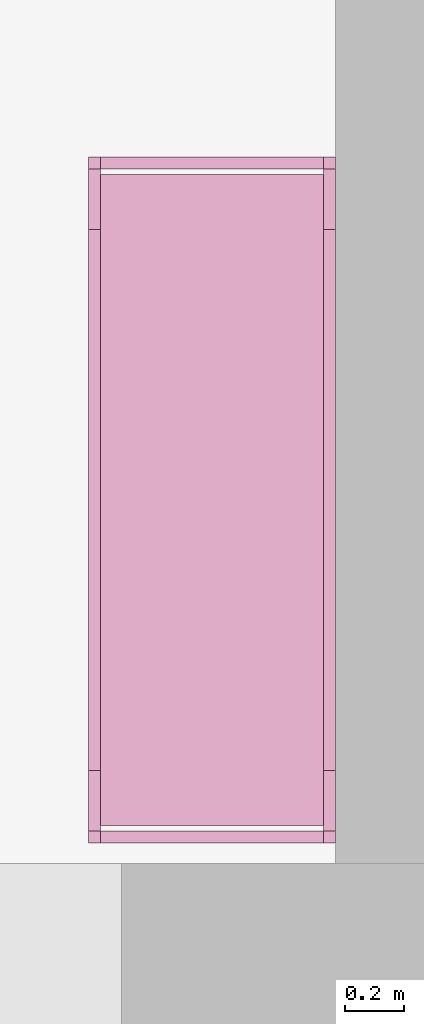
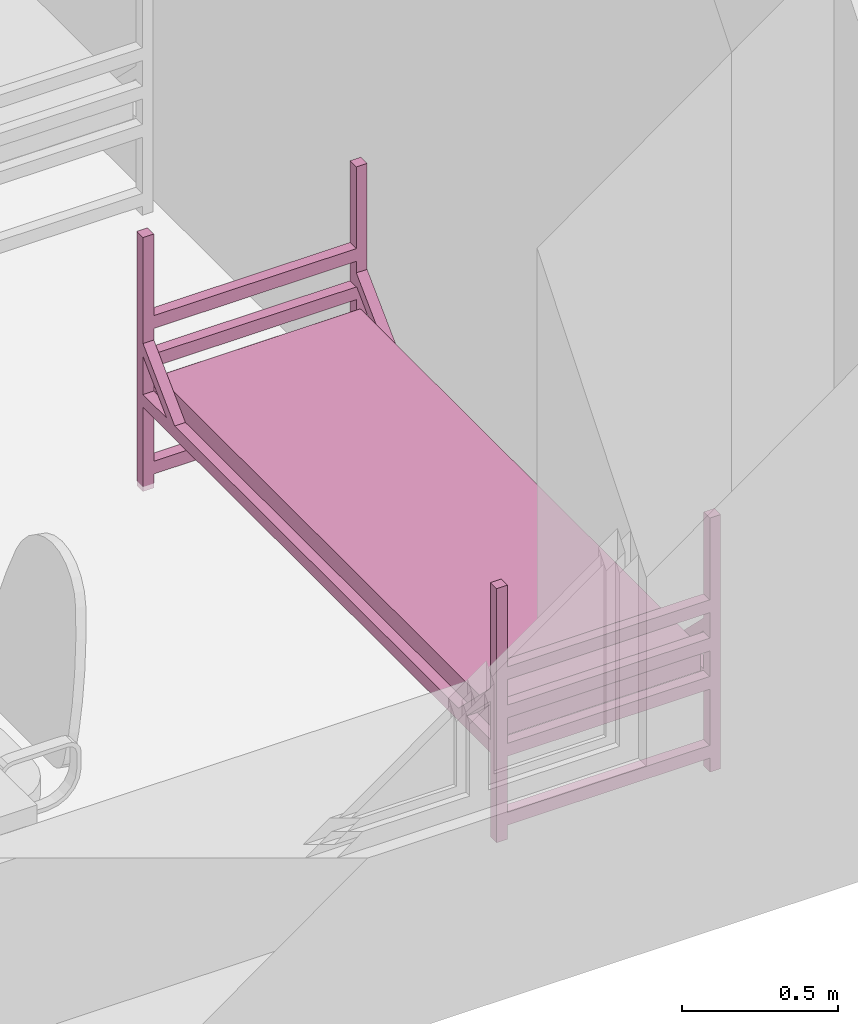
# One storey, part 35 of 48: 1 furnishing.
"""IFC2X3 building model written with IfcOpenShell, lengths in millimetres."""

from ifc_helpers import new_model, entity, si_unit, converted_unit, derived_unit, direction, frame, frame_2d, origin, place, context, subcontext, project, spatial, polyline, circle_curve, parameter, trimmed, segment, composite_curve, rectangle, outline, extrude, source, transform, mapped, material, type_object, type_shapes, element, save


model = new_model("IFC2X3")

# Units and contexts
model_context = context("Model", 3, precision=0.01, world=origin(), true_north=direction((6.12303176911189e-17, 1.0)))
body_context = subcontext(model_context, "Body", "Model", "MODEL_VIEW")
ifc_project = project(units=[si_unit("LENGTHUNIT", "METRE", prefix="MILLI"), si_unit("AREAUNIT", "SQUARE_METRE"), si_unit("VOLUMEUNIT", "CUBIC_METRE"), converted_unit("PLANEANGLEUNIT", "DEGREE", entity("IfcRatioMeasure", 0.0174532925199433), si_unit("PLANEANGLEUNIT", "RADIAN"), dimensions=[0, 0, 0, 0, 0, 0, 0]), si_unit("MASSUNIT", "GRAM", prefix="KILO"), derived_unit("MASSDENSITYUNIT", [(si_unit("MASSUNIT", "GRAM", prefix="KILO"), 1), (si_unit("LENGTHUNIT", "METRE"), -3)]), si_unit("TIMEUNIT", "SECOND"), si_unit("FREQUENCYUNIT", "HERTZ"), si_unit("THERMODYNAMICTEMPERATUREUNIT", "DEGREE_CELSIUS"), derived_unit("THERMALTRANSMITTANCEUNIT", [(si_unit("MASSUNIT", "GRAM", prefix="KILO"), 1), (si_unit("THERMODYNAMICTEMPERATUREUNIT", "KELVIN"), -1), (si_unit("TIMEUNIT", "SECOND"), -3)]), derived_unit("VOLUMETRICFLOWRATEUNIT", [(si_unit("LENGTHUNIT", "METRE"), 3), (si_unit("TIMEUNIT", "SECOND"), -1)]), si_unit("ELECTRICCURRENTUNIT", "AMPERE"), si_unit("ELECTRICVOLTAGEUNIT", "VOLT"), si_unit("POWERUNIT", "WATT"), si_unit("FORCEUNIT", "NEWTON", prefix="KILO"), si_unit("ILLUMINANCEUNIT", "LUX"), si_unit("LUMINOUSFLUXUNIT", "LUMEN"), si_unit("LUMINOUSINTENSITYUNIT", "CANDELA"), derived_unit("USERDEFINED", [(si_unit("MASSUNIT", "GRAM", prefix="KILO"), -1), (si_unit("LENGTHUNIT", "METRE"), -2), (si_unit("TIMEUNIT", "SECOND"), 3), (si_unit("LUMINOUSFLUXUNIT", "LUMEN"), 1)]), derived_unit("LINEARVELOCITYUNIT", [(si_unit("LENGTHUNIT", "METRE"), 1), (si_unit("TIMEUNIT", "SECOND"), -1)]), si_unit("PRESSUREUNIT", "PASCAL"), derived_unit("USERDEFINED", [(si_unit("LENGTHUNIT", "METRE"), -2), (si_unit("MASSUNIT", "GRAM", prefix="KILO"), 1), (si_unit("TIMEUNIT", "SECOND"), -2)]), derived_unit("LINEARFORCEUNIT", [(si_unit("MASSUNIT", "GRAM", prefix="KILO"), 1), (si_unit("LENGTHUNIT", "METRE"), 1), (si_unit("TIMEUNIT", "SECOND"), -2), (si_unit("LENGTHUNIT", "METRE"), -1)]), derived_unit("PLANARFORCEUNIT", [(si_unit("MASSUNIT", "GRAM", prefix="KILO"), 1), (si_unit("LENGTHUNIT", "METRE"), 1), (si_unit("TIMEUNIT", "SECOND"), -2), (si_unit("LENGTHUNIT", "METRE"), -2)])], contexts=[model_context])

# Site, building, storey, space
site_placement = place(None, origin())
site = spatial("IfcSite", under=ifc_project, at=site_placement, Name="Default", CompositionType="ELEMENT")
building_placement = place(site_placement, origin())
building = spatial("IfcBuilding", under=site, at=building_placement, Name="SMA ARH", CompositionType="ELEMENT")
storey_placement = place(building_placement, frame((0.0, 0.0, 6600.0)))
storey = spatial("IfcBuildingStorey", under=building, at=storey_placement, Name="3 Korrus", CompositionType="ELEMENT", Elevation=6599.99999999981)
space_placement = place(storey_placement, origin())
space = spatial("IfcSpace", under=storey, at=space_placement, Name="3-6", CompositionType="ELEMENT", InteriorOrExteriorSpace="INTERNAL")

# Furnishing
ifc_material = material(Name="Madrats")
furniture_type = type_object("IfcFurnitureType", Name="Kasarmu voodi ühekordne 2308x830:Kasarmu voodi ühekordne 2308x830", material=ifc_material)
shared_shape = source(origin(), body_context, "Body", "SweptSolid", [
    extrude(rectangle(XDim=39.9999999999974, YDim=750.000000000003, at=frame_2d((-1.35003119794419e-13, -2.8421709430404e-14), x_axis=(1.0, 0.0))), frame((1.68638457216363, -1226.7969571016, 55.0), z_axis=(0.0, 0.0, 1.0), x_axis=(0.0, -1.0, 0.0)), (0.0, 0.0, 1.0), 49.9999999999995),
    extrude(rectangle(XDim=39.9999999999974, YDim=750.000000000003, at=frame_2d((-1.35003119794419e-13, -2.8421709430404e-14), x_axis=(1.0, 0.0))), frame((1.68638457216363, -1226.7969571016, 325.0), z_axis=(0.0, 0.0, 1.0), x_axis=(0.0, -1.0, 0.0)), (0.0, 0.0, 1.0), 49.9999999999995),
    extrude(rectangle(XDim=39.9999999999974, YDim=750.000000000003, at=frame_2d((-1.35003119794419e-13, -2.8421709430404e-14), x_axis=(1.0, 0.0))), frame((1.68638457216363, -1226.7969571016, 475.0), z_axis=(0.0, 0.0, 1.0), x_axis=(0.0, -1.0, 0.0)), (0.0, 0.0, 1.0), 49.9999999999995),
    extrude(rectangle(XDim=39.9999999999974, YDim=750.000000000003, at=frame_2d((-1.35003119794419e-13, -2.8421709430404e-14), x_axis=(1.0, 0.0))), frame((1.68638457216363, -1226.7969571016, 625.0), z_axis=(0.0, 0.0, 1.0), x_axis=(0.0, -1.0, 0.0)), (0.0, 0.0, 1.0), 50.0000000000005),
    extrude(rectangle(XDim=39.9999999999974, YDim=750.000000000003, at=frame_2d((1.35003119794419e-13, -2.8421709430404e-14), x_axis=(1.0, 0.0))), frame((1.68638457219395, 1041.2030428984, 55.0), z_axis=(0.0, 0.0, 1.0), x_axis=(0.0, -1.0, 0.0)), (0.0, 0.0, 1.0), 50.0000000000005),
    extrude(rectangle(XDim=39.9999999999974, YDim=750.000000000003, at=frame_2d((1.35003119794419e-13, -2.8421709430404e-14), x_axis=(1.0, 0.0))), frame((1.68638457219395, 1041.2030428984, 325.0), z_axis=(0.0, 0.0, 1.0), x_axis=(0.0, -1.0, 0.0)), (0.0, 0.0, 1.0), 50.0000000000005),
    extrude(rectangle(XDim=39.9999999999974, YDim=750.000000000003, at=frame_2d((1.35003119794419e-13, -2.8421709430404e-14), x_axis=(1.0, 0.0))), frame((1.68638457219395, 1041.2030428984, 475.0), z_axis=(0.0, 0.0, 1.0), x_axis=(0.0, -1.0, 0.0)), (0.0, 0.0, 1.0), 50.0000000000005),
    extrude(rectangle(XDim=39.9999999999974, YDim=750.000000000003, at=frame_2d((1.35003119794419e-13, -2.8421709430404e-14), x_axis=(1.0, 0.0))), frame((1.68638457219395, 1041.2030428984, 625.0), z_axis=(0.0, 0.0, 1.0), x_axis=(0.0, -1.0, 0.0)), (0.0, 0.0, 1.0), 49.9999999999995),
    extrude(outline(composite_curve([segment(trimmed(circle_curve(frame_2d((1085.0, -40.0), x_axis=(1.0, 0.0)), 10.0), [parameter(270.0)], [parameter(0.0)], True, "PARAMETER"), True, "CONTINUOUS"), segment(polyline([(1095.0, -40.0), (1095.0, 40.0)]), True, "CONTINUOUS"), segment(trimmed(circle_curve(frame_2d((1085.0, 40.0), x_axis=(1.0, 0.0)), 10.0), [parameter(0.0)], [parameter(90.0000000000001)], True, "PARAMETER"), True, "CONTINUOUS"), segment(polyline([(1085.0, 50.0), (-1085.0, 50.0)]), True, "CONTINUOUS"), segment(trimmed(circle_curve(frame_2d((-1085.0, 40.0), x_axis=(1.0, 0.0)), 10.0), [parameter(90.0000000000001)], [parameter(180.0)], True, "PARAMETER"), True, "CONTINUOUS"), segment(polyline([(-1095.0, 40.0), (-1095.0, -40.0)]), True, "CONTINUOUS"), segment(trimmed(circle_curve(frame_2d((-1085.0, -40.0), x_axis=(1.0, 0.0)), 10.0), [parameter(180.0)], [parameter(270.0)], True, "PARAMETER"), True, "CONTINUOUS"), segment(polyline([(-1085.0, -50.0), (1085.0, -50.0)]), True, "CONTINUOUS")], self_intersect=False)), frame((-373.313615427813, -92.7969571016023, 405.0), z_axis=(1.0, 0.0, 0.0), x_axis=(0.0, -1.0, 0.0)), (0.0, 0.0, 1.0), 750.000000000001),
    extrude(outline(polyline([(-1114.0, -100.0), (1114.0, -100.0), (1114.0, -50.0), (961.59199141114, -50.0), (1114.0, 100.0), (1114.0, 150.0), (910.789321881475, -50.0), (-910.789321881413, -50.0), (-1114.0, 150.0), (-1114.0, 100.0), (-961.591991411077, -50.0), (-1114.0, -50.0), (-1114.0, -100.0)])), frame((-413.313615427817, -92.7969571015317, 430.0), z_axis=(1.0, 0.0, 0.0), x_axis=(0.0, 1.0, 0.0)), (0.0, 0.0, 1.0), 39.9999999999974),
    extrude(outline(polyline([(-1114.0, -100.0), (1114.0, -100.0), (1114.0, -50.0), (961.591991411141, -50.0), (1114.0, 100.0), (1114.0, 150.0), (910.789321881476, -50.0), (-910.789321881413, -50.0), (-1114.0, 150.0), (-1114.0, 100.0), (-961.591991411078, -50.0), (-1114.0, -50.0), (-1114.0, -100.0)])), frame((376.686384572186, -92.796957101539, 430.0), z_axis=(1.0, 0.0, 0.0), x_axis=(0.0, 1.0, 0.0)), (0.0, 0.0, 1.0), 39.9999999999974),
    extrude(rectangle(XDim=39.9999999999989, YDim=39.9999999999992, at=frame_2d((-6.75015598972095e-14, 0.0), x_axis=(1.0, 0.0))), frame((396.686384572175, -1226.79695710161, 0.0), z_axis=(0.0, 0.0, 1.0), x_axis=(0.0, 1.0, 0.0)), (0.0, 0.0, 1.0), 995.0),
    extrude(rectangle(XDim=39.9999999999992, YDim=39.9999999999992, at=frame_2d((-1.35003119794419e-13, 0.0), x_axis=(1.0, 0.0))), frame((396.686384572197, 1041.20304289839, 0.0), z_axis=(0.0, 0.0, 1.0), x_axis=(0.0, 1.0, 0.0)), (0.0, 0.0, 1.0), 995.0),
    extrude(rectangle(XDim=40.0000000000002, YDim=39.9999999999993, at=frame_2d((-1.35003119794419e-13, 0.0), x_axis=(1.0, 0.0))), frame((-393.313615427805, 1041.2030428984, 0.0), z_axis=(0.0, 0.0, 1.0), x_axis=(0.0, 1.0, 0.0)), (0.0, 0.0, 1.0), 995.0),
    extrude(rectangle(XDim=39.9999999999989, YDim=39.9999999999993, at=frame_2d((-6.75015598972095e-14, 0.0), x_axis=(1.0, 0.0))), frame((-393.313615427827, -1226.7969571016, 0.0), z_axis=(0.0, 0.0, 1.0), x_axis=(0.0, 1.0, 0.0)), (0.0, 0.0, 1.0), 995.0),
])
type_shapes(furniture_type, [shared_shape])
furnishing_placement = place(space_placement, frame((30033.3136154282, 1316.79695710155, 0.0)))
element("IfcFurnishingElement", 1, at=furnishing_placement, inside=space, type_object=furniture_type, material=ifc_material, Name="Kasarmu voodi ühekordne 2308x830:Kasarmu voodi ühekordne 2308x830", ObjectType="Kasarmu voodi ühekordne 2308x830:Kasarmu voodi ühekordne 2308x830", context=body_context, shape_type="MappedRepresentation", body=[
    mapped(shared_shape, transform((0.0, 0.0, 0.0), scale=1.0)),
])

save(model, "model.ifc")
